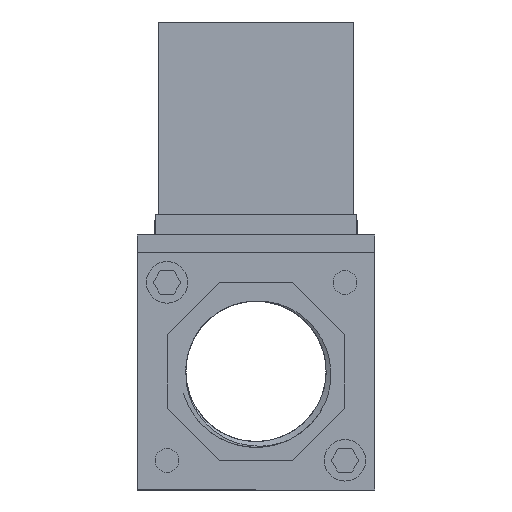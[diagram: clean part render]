
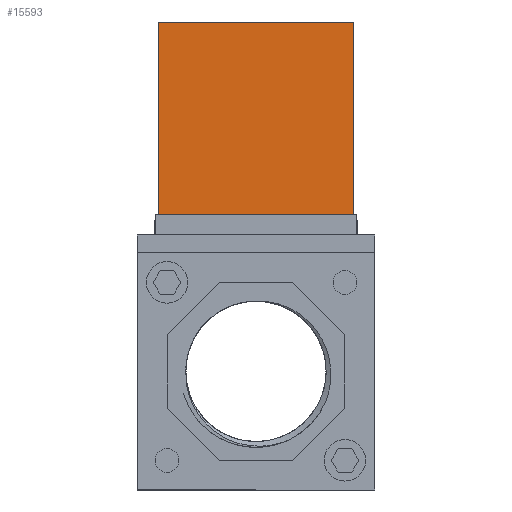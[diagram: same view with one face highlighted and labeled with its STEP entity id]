
A CAD part, left-side view. The second image highlights one B-rep face of the part: STEP entity #15593.
In plain terms, the highlighted planar face has unit normal (-1, 0, 0) as drawn and (1, 0, 0) by its records, which use the part's own axes.
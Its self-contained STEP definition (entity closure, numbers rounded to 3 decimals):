
#145 = DIRECTION ( 'NONE',  ( -1., 0., 0. ) ) ;
#881 = AXIS2_PLACEMENT_3D ( 'NONE', #7251, #145, #10364 ) ;
#1321 = DIRECTION ( 'NONE',  ( 0., 0., -1. ) ) ;
#1410 = LINE ( 'NONE', #8714, #6787 ) ;
#1697 = VERTEX_POINT ( 'NONE', #16533 ) ;
#1909 = DIRECTION ( 'NONE',  ( 0., 1., 0. ) ) ;
#2684 = PLANE ( 'NONE',  #881 ) ;
#2855 = CARTESIAN_POINT ( 'NONE',  ( 57., 0., 33. ) ) ;
#3837 = LINE ( 'NONE', #9574, #14004 ) ;
#4268 = VERTEX_POINT ( 'NONE', #2855 ) ;
#5027 = EDGE_CURVE ( 'NONE', #15085, #1697, #13682, .T. ) ;
#5822 = ORIENTED_EDGE ( 'NONE', *, *, #15575, .F. ) ;
#5990 = FACE_OUTER_BOUND ( 'NONE', #12242, .T. ) ;
#6343 = CARTESIAN_POINT ( 'NONE',  ( 57., 0., 0. ) ) ;
#6768 = EDGE_CURVE ( 'NONE', #4268, #10380, #15496, .T. ) ;
#6787 = VECTOR ( 'NONE', #1321, 1000. ) ;
#6898 = ORIENTED_EDGE ( 'NONE', *, *, #10625, .T. ) ;
#7108 = ORIENTED_EDGE ( 'NONE', *, *, #6768, .F. ) ;
#7251 = CARTESIAN_POINT ( 'NONE',  ( 57., 0., 33. ) ) ;
#7289 = CARTESIAN_POINT ( 'NONE',  ( 57., 32.4, 33. ) ) ;
#8714 = CARTESIAN_POINT ( 'NONE',  ( 57., 32.4, 33. ) ) ;
#9574 = CARTESIAN_POINT ( 'NONE',  ( 57., 0., 33. ) ) ;
#9906 = ORIENTED_EDGE ( 'NONE', *, *, #5027, .T. ) ;
#10364 = DIRECTION ( 'NONE',  ( 0., 0., 1. ) ) ;
#10380 = VERTEX_POINT ( 'NONE', #7289 ) ;
#10625 = EDGE_CURVE ( 'NONE', #4268, #15085, #3837, .T. ) ;
#10948 = DIRECTION ( 'NONE',  ( 0., 0., -1. ) ) ;
#12090 = VECTOR ( 'NONE', #17138, 1000. ) ;
#12242 = EDGE_LOOP ( 'NONE', ( #9906, #5822, #7108, #6898 ) ) ;
#12550 = VECTOR ( 'NONE', #1909, 1000. ) ;
#13682 = LINE ( 'NONE', #15242, #12550 ) ;
#14004 = VECTOR ( 'NONE', #10948, 1000. ) ;
#15085 = VERTEX_POINT ( 'NONE', #6343 ) ;
#15242 = CARTESIAN_POINT ( 'NONE',  ( 57., 0., 0. ) ) ;
#15496 = LINE ( 'NONE', #16851, #12090 ) ;
#15575 = EDGE_CURVE ( 'NONE', #10380, #1697, #1410, .T. ) ;
#15593 = ADVANCED_FACE ( 'NONE', ( #5990 ), #2684, .F. ) ;
#16533 = CARTESIAN_POINT ( 'NONE',  ( 57., 32.4, 0. ) ) ;
#16851 = CARTESIAN_POINT ( 'NONE',  ( 57., 0., 33. ) ) ;
#17138 = DIRECTION ( 'NONE',  ( 0., 1., 0. ) ) ;
